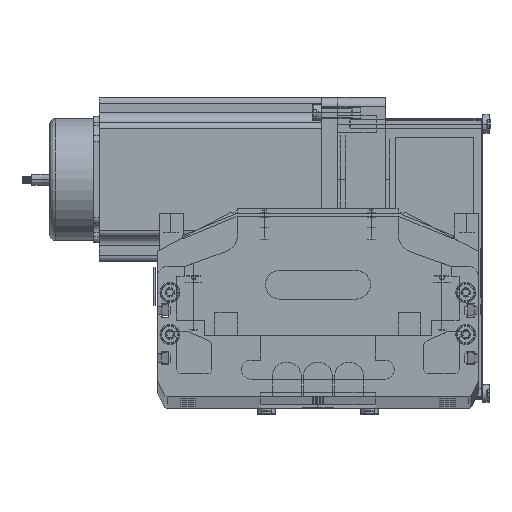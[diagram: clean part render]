
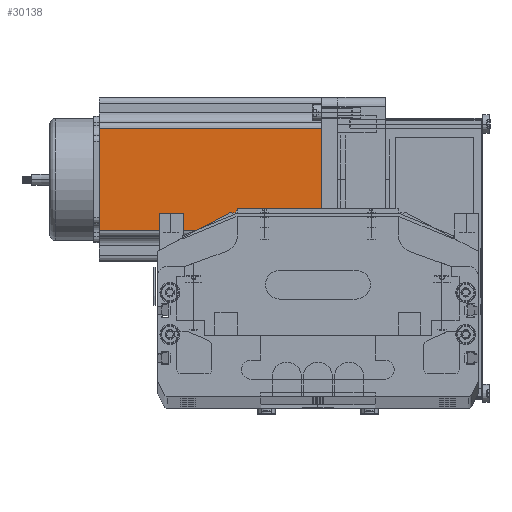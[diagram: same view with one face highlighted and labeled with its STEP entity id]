
A CAD part, top view. The second image highlights one B-rep face of the part: STEP entity #30138.
In plain terms, the highlighted planar face has unit normal (0, 0, 1) as drawn and (0, -1, 0) by its records, which use the part's own axes.
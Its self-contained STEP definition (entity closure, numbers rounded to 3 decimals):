
#9235 = DIRECTION ( 'NONE',  ( 0., 0., 1. ) ) ;
#9236 = VECTOR ( 'NONE', #9235, 1000. ) ;
#9237 = CARTESIAN_POINT ( 'NONE',  ( 69.74, 0., 116.5 ) ) ;
#9238 = LINE ( 'NONE', #9237, #9236 ) ;
#9330 = CARTESIAN_POINT ( 'NONE',  ( 16.16, 0., 0. ) ) ;
#9357 = CARTESIAN_POINT ( 'NONE',  ( 0., 0., 0. ) ) ;
#9358 = LINE ( 'NONE', #9357, #9550 ) ;
#9368 = LINE ( 'NONE', #9544, #9542 ) ;
#9537 = DIRECTION ( 'NONE',  ( 0., 0., -1. ) ) ;
#9538 = VECTOR ( 'NONE', #9537, 1000. ) ;
#9539 = CARTESIAN_POINT ( 'NONE',  ( 16.16, 0., 116.5 ) ) ;
#9542 = VECTOR ( 'NONE', #9543, 1000. ) ;
#9543 = DIRECTION ( 'NONE',  ( 1., 0., 0. ) ) ;
#9544 = CARTESIAN_POINT ( 'NONE',  ( 0., 0., 116.5 ) ) ;
#9549 = DIRECTION ( 'NONE',  ( 1., 0., 0. ) ) ;
#9550 = VECTOR ( 'NONE', #9549, 1000. ) ;
#9551 = LINE ( 'NONE', #9539, #9538 ) ;
#9638 = CARTESIAN_POINT ( 'NONE',  ( 69.74, 0., 0. ) ) ;
#9674 = DIRECTION ( 'NONE',  ( 0., 0., 1. ) ) ;
#9675 = DIRECTION ( 'NONE',  ( 0., 1., 0. ) ) ;
#9676 = CARTESIAN_POINT ( 'NONE',  ( 0., 0., 116.5 ) ) ;
#9684 = PLANE ( 'NONE',  #9771 ) ;
#9691 = FACE_OUTER_BOUND ( 'NONE', #30189, .T. ) ;
#9771 = AXIS2_PLACEMENT_3D ( 'NONE', #9676, #9675, #9674 ) ;
#9818 = CARTESIAN_POINT ( 'NONE',  ( 16.16, 0., 116.5 ) ) ;
#10097 = CARTESIAN_POINT ( 'NONE',  ( 69.74, 0., 116.5 ) ) ;
#29965 = EDGE_CURVE ( 'NONE', #30178, #30199, #9238, .T. ) ;
#30001 = VERTEX_POINT ( 'NONE', #9330 ) ;
#30070 = EDGE_CURVE ( 'NONE', #30001, #30178, #9358, .T. ) ;
#30073 = ORIENTED_EDGE ( 'NONE', *, *, #29965, .T. ) ;
#30074 = EDGE_CURVE ( 'NONE', #30140, #30199, #9368, .T. ) ;
#30076 = EDGE_CURVE ( 'NONE', #30140, #30001, #9551, .T. ) ;
#30110 = ORIENTED_EDGE ( 'NONE', *, *, #30076, .T. ) ;
#30138 = ADVANCED_FACE ( 'NONE', ( #9691 ), #9684, .F. ) ;
#30139 = ORIENTED_EDGE ( 'NONE', *, *, #30074, .F. ) ;
#30140 = VERTEX_POINT ( 'NONE', #9818 ) ;
#30167 = ORIENTED_EDGE ( 'NONE', *, *, #30070, .T. ) ;
#30178 = VERTEX_POINT ( 'NONE', #9638 ) ;
#30189 = EDGE_LOOP ( 'NONE', ( #30167, #30073, #30139, #30110 ) ) ;
#30199 = VERTEX_POINT ( 'NONE', #10097 ) ;
